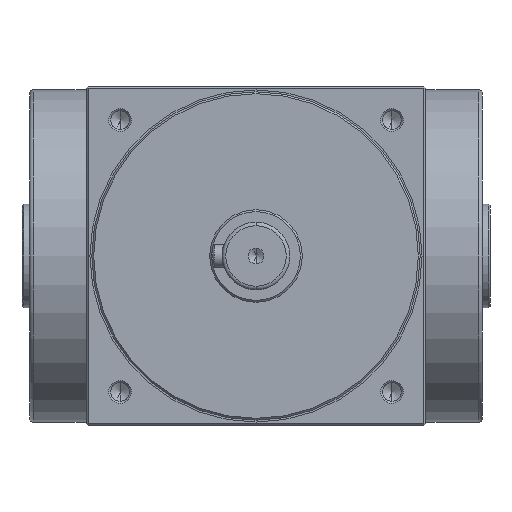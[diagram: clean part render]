
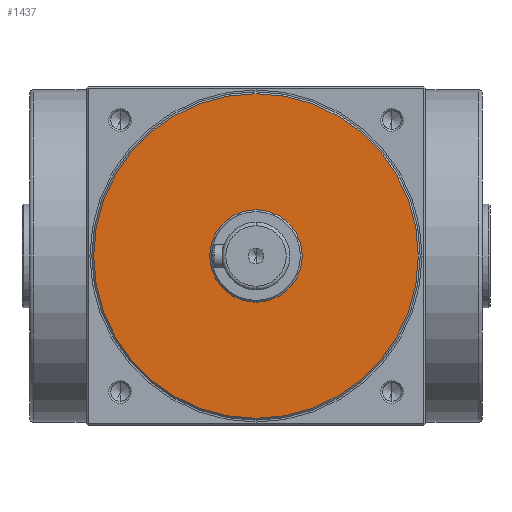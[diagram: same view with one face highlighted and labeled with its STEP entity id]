
A CAD part, front view. The second image highlights one B-rep face of the part: STEP entity #1437.
In plain terms, the highlighted planar face has unit normal (0, -1, 0).
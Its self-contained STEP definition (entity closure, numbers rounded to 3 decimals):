
#58 = CARTESIAN_POINT ( 'NONE',  ( 0., -98., 12.25 ) ) ;
#130 = PLANE ( 'NONE',  #5888 ) ;
#310 = EDGE_CURVE ( 'NONE', #2692, #3991, #3910, .T. ) ;
#633 = DIRECTION ( 'NONE',  ( 0., 0., -1. ) ) ;
#722 = CARTESIAN_POINT ( 'NONE',  ( 0., -98., 0. ) ) ;
#919 = ORIENTED_EDGE ( 'NONE', *, *, #2833, .F. ) ;
#1070 = DIRECTION ( 'NONE',  ( 0., 0., -1. ) ) ;
#1155 = DIRECTION ( 'NONE',  ( 0., -1., 0. ) ) ;
#1198 = ORIENTED_EDGE ( 'NONE', *, *, #2432, .T. ) ;
#1322 = CARTESIAN_POINT ( 'NONE',  ( 0., -98., 43. ) ) ;
#1414 = AXIS2_PLACEMENT_3D ( 'NONE', #8567, #3275, #1070 ) ;
#1437 = ADVANCED_FACE ( 'NONE', ( #6273, #6025 ), #130, .T. ) ;
#1935 = EDGE_CURVE ( 'NONE', #2408, #4624, #6125, .T. ) ;
#2327 = CIRCLE ( 'NONE', #9104, 43. ) ;
#2408 = VERTEX_POINT ( 'NONE', #3975 ) ;
#2432 = EDGE_CURVE ( 'NONE', #3991, #2692, #2327, .T. ) ;
#2692 = VERTEX_POINT ( 'NONE', #1322 ) ;
#2833 = EDGE_CURVE ( 'NONE', #4624, #2408, #4217, .T. ) ;
#2862 = DIRECTION ( 'NONE',  ( 0., -1., 0. ) ) ;
#2967 = AXIS2_PLACEMENT_3D ( 'NONE', #5172, #2862, #633 ) ;
#3275 = DIRECTION ( 'NONE',  ( 0., -1., 0. ) ) ;
#3329 = CARTESIAN_POINT ( 'NONE',  ( 0., -98., 0. ) ) ;
#3835 = DIRECTION ( 'NONE',  ( 0., 0., -1. ) ) ;
#3910 = CIRCLE ( 'NONE', #2967, 43. ) ;
#3975 = CARTESIAN_POINT ( 'NONE',  ( 0., -98., -12.25 ) ) ;
#3991 = VERTEX_POINT ( 'NONE', #4256 ) ;
#4194 = ORIENTED_EDGE ( 'NONE', *, *, #310, .T. ) ;
#4217 = CIRCLE ( 'NONE', #4786, 12.25 ) ;
#4256 = CARTESIAN_POINT ( 'NONE',  ( 0., -98., -43. ) ) ;
#4624 = VERTEX_POINT ( 'NONE', #58 ) ;
#4786 = AXIS2_PLACEMENT_3D ( 'NONE', #722, #7676, #3835 ) ;
#5172 = CARTESIAN_POINT ( 'NONE',  ( 0., -98., 0. ) ) ;
#5603 = DIRECTION ( 'NONE',  ( 0., -1., 0. ) ) ;
#5888 = AXIS2_PLACEMENT_3D ( 'NONE', #9329, #5603, #7066 ) ;
#6025 = FACE_BOUND ( 'NONE', #6910, .T. ) ;
#6125 = CIRCLE ( 'NONE', #1414, 12.25 ) ;
#6273 = FACE_OUTER_BOUND ( 'NONE', #9802, .T. ) ;
#6910 = EDGE_LOOP ( 'NONE', ( #919, #9035 ) ) ;
#7066 = DIRECTION ( 'NONE',  ( 0., 0., -1. ) ) ;
#7676 = DIRECTION ( 'NONE',  ( 0., -1., 0. ) ) ;
#8567 = CARTESIAN_POINT ( 'NONE',  ( 0., -98., 0. ) ) ;
#8623 = DIRECTION ( 'NONE',  ( 0., 0., -1. ) ) ;
#9035 = ORIENTED_EDGE ( 'NONE', *, *, #1935, .F. ) ;
#9104 = AXIS2_PLACEMENT_3D ( 'NONE', #3329, #1155, #8623 ) ;
#9329 = CARTESIAN_POINT ( 'NONE',  ( 0., -98., 0. ) ) ;
#9802 = EDGE_LOOP ( 'NONE', ( #4194, #1198 ) ) ;
